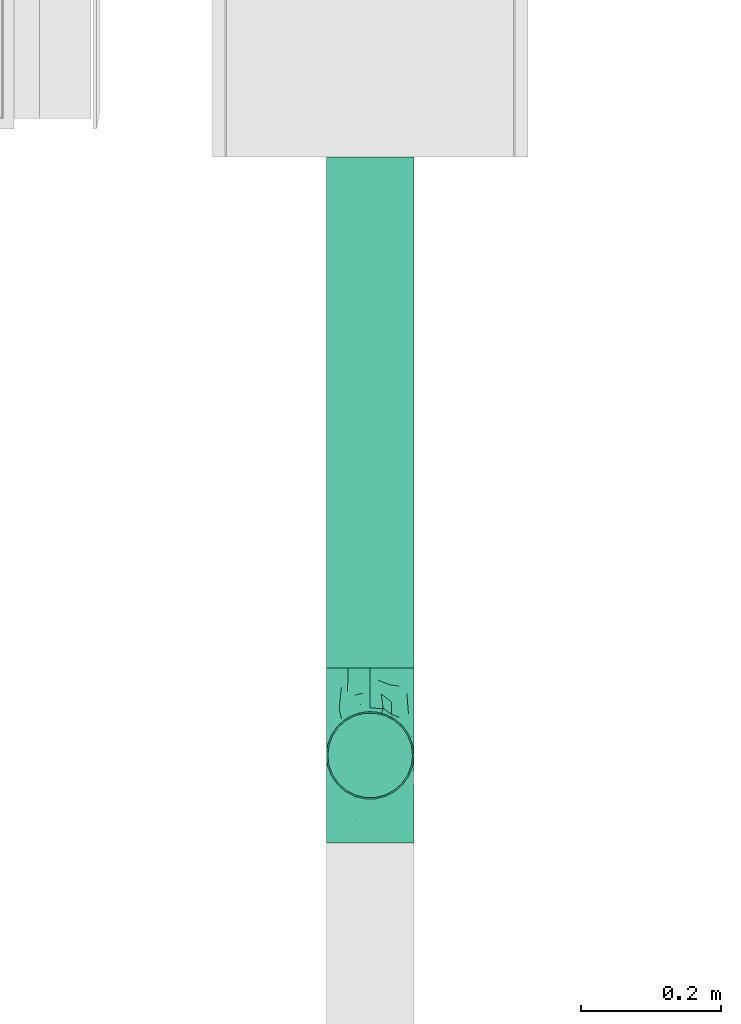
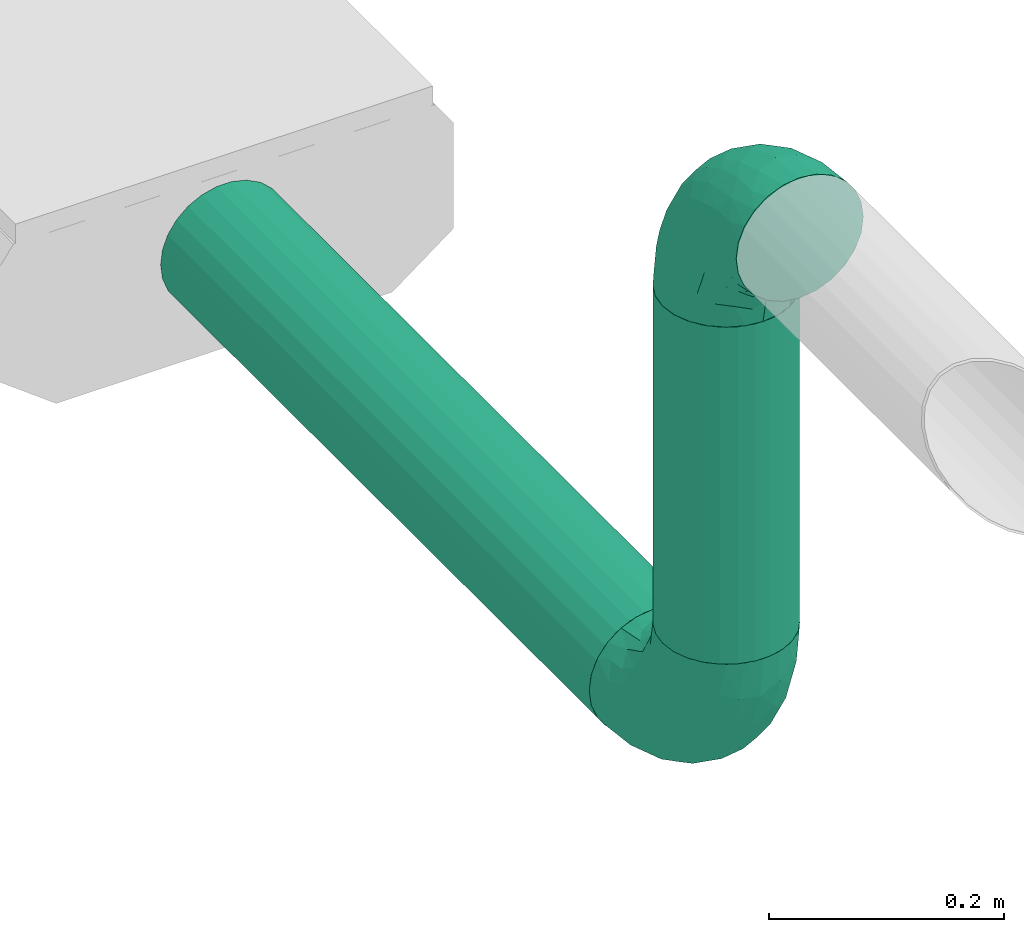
# One storey, part 22 of 36: 2 flow fittings, 2 flow segments.
"""IFC2X3 building model written with IfcOpenShell, lengths in millimetres."""

from ifc_helpers import new_model, entity, si_unit, converted_unit, derived_unit, direction, frame, origin_with_axes, origin_2d_with_axis, place, context, subcontext, project, spatial, hollow_circle, extrude, open_shell, surface_model, source, transform, mapped, type_object, element, save


model = new_model("IFC2X3")

# Units and contexts
model_context = context("Model", 3, precision=0.01, world=frame((0.0, 4.29681676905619e-09, 0.0)), true_north=direction((4.01073788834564e-13, 1.0)))
plan_context = context("Plan", 3, precision=0.01, world=frame((0.0, 4.29681676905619e-09, 0.0)), true_north=direction((4.01073788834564e-13, 1.0)))
body_context = subcontext(model_context, "Body", "Model", "MODEL_VIEW")
ifc_project = project(units=[converted_unit("PLANEANGLEUNIT", "DEGREE", entity("IfcPositiveLengthMeasure", 0.0174532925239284), si_unit("PLANEANGLEUNIT", "RADIAN"), dimensions=[0, 0, 0, 0, 0, 0, 0]), si_unit("AREAUNIT", "SQUARE_METRE"), si_unit("LENGTHUNIT", "METRE", prefix="MILLI"), si_unit("MASSUNIT", "GRAM", prefix="KILO"), si_unit("POWERUNIT", "WATT"), si_unit("PRESSUREUNIT", "PASCAL"), si_unit("FORCEUNIT", "NEWTON", prefix="KILO"), si_unit("ELECTRICCURRENTUNIT", "AMPERE"), si_unit("THERMODYNAMICTEMPERATUREUNIT", "DEGREE_CELSIUS"), si_unit("TIMEUNIT", "SECOND"), si_unit("VOLUMEUNIT", "CUBIC_METRE"), derived_unit("LINEARVELOCITYUNIT", [(si_unit("LENGTHUNIT", "METRE"), 1), (si_unit("TIMEUNIT", "SECOND"), -1)]), derived_unit("VOLUMETRICFLOWRATEUNIT", [(si_unit("VOLUMEUNIT", "CUBIC_METRE"), 1), (si_unit("TIMEUNIT", "SECOND"), -1)]), derived_unit("THERMALTRANSMITTANCEUNIT", [(si_unit("POWERUNIT", "WATT"), 1), (si_unit("THERMODYNAMICTEMPERATUREUNIT", "KELVIN"), -1), (si_unit("AREAUNIT", "SQUARE_METRE"), -1)])], contexts=[model_context, plan_context])

# Site, building, storey
site_placement = place(None, frame((0.0, -4.29681676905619e-09, 0.0), z_axis=(0.0, 0.0, 1.0), x_axis=(1.0, 0.0, 0.0)))
site = spatial("IfcSite", under=ifc_project, at=site_placement, CompositionType="ELEMENT")
building_placement = place(site_placement, frame((0.0, 4.29681676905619e-09, 0.0), z_axis=(0.0, 0.0, 1.0), x_axis=(1.0, 0.0, 0.0)))
building = spatial("IfcBuilding", under=site, at=building_placement, Name="mc-building", CompositionType="ELEMENT")
storey_placement = place(building_placement, frame((0.0, 0.0, 204000.0), z_axis=(0.0, 0.0, 1.0), x_axis=(1.0, 0.0, 0.0)))
storey = spatial("IfcBuildingStorey", under=building, at=storey_placement, Name="Nivå D", CompositionType="ELEMENT", Elevation=204000.0)

# Flow fittings
duct_fitting_type = type_object("IfcDuctFittingType", Name="magicirc_elbow_full_radius_001", PredefinedType="BEND")
shared_shape_1 = source(origin_with_axes(), body_context, "Body", "SurfaceModel", [
    surface_model("IfcShellBasedSurfaceModel", [(-125.00008, 16.17619, -60.37037), (-125.00008, 0.0, -62.5), (-125.00008, 44.19417, -44.19417), (-125.00008, 31.25, -54.12659), (-125.00008, 60.37037, -16.17619), (-125.00008, 54.12659, -31.25), (-125.00008, -16.17619, -60.37037), (-125.00008, -31.25, -54.12659), (-125.00008, -44.19417, -44.19417), (-125.00008, -54.12659, -31.25), (-125.00008, -60.37037, -16.17619), (-125.00008, -62.5, 0.0), (-125.00008, 62.5, 0.0), (-125.00008, -31.25, 54.12659), (-125.00008, 60.37037, 16.17619), (-125.00008, 54.12659, 31.25), (-125.00008, 16.17619, 60.37037), (-125.00008, 31.25, 54.12659), (-125.00008, 44.19417, 44.19417), (-125.00008, -54.12659, 31.25), (-125.00008, -44.19417, 44.19417), (-125.00008, -60.37037, 16.17619), (-125.00008, -16.17619, 60.37037), (-125.00008, 0.0, 62.5), (-16.17627, 125.00007, -60.37037), (44.1941, 125.00011, -44.19417), (-8e-05, 125.00008, -62.5), (-44.19425, 125.00006, -44.19417), (-31.25008, 125.00006, -54.12659), (-54.12667, 125.00005, -31.25), (-60.37044, 125.00004, -16.17619), (16.17611, 125.00009, -60.37037), (31.24992, 125.0001, -54.12659), (60.37028, 125.00012, -16.17619), (54.12651, 125.00012, -31.25), (62.49992, 125.00012, 0.0), (-60.37044, 125.00004, 16.17619), (-16.17627, 125.00007, 60.37037), (-44.19425, 125.00006, 44.19417), (-54.12667, 125.00005, 31.25), (-31.25008, 125.00006, 54.12659), (-8e-05, 125.00008, 62.5), (60.37028, 125.00012, 16.17619), (44.1941, 125.00011, 44.19417), (54.12651, 125.00012, 31.25), (31.24992, 125.0001, 54.12659), (16.17611, 125.00009, 60.37037), (-62.50008, 125.00004, 0.0), (-92.01499, -48.59662, 35.11543), (-82.31108, -36.10079, 46.59002), (-83.27738, -57.79898, 0.0), (21.59337, 8.09572, 0.0), (6.68949, -6.68949, 12.50062), (-8.0957, -21.59337, 0.0), (-85.18294, -54.95352, 19.72452), (-63.86869, 108.10794, 10.69753), (-72.65271, 88.16477, 13.64848), (-58.8594, 108.47701, 26.01877), (28.68801, 50.93019, 42.73586), (15.2499, 48.30382, 51.88115), (13.33609, 22.15572, 40.76355), (-28.58039, -33.18172, 16.61251), (-55.80936, -40.00167, 31.60253), (-55.92907, -46.21073, 18.75922), (-43.64685, -43.93165, 0.0), (-11.16432, 11.16432, 51.09904), (-91.91548, -23.64007, 56.2333), (-48.30381, -15.24993, 51.88115), (-62.22465, -0.56087, 60.57833), (-86.05227, 71.09174, 22.01564), (-76.29763, 73.71529, 30.99182), (-95.48006, -8.27954, 61.43109), (-21.7217, 61.46247, 62.38786), (-46.2947, 46.29467, 60.98138), (-37.21572, 27.312, 62.17805), (-96.34428, 24.51221, 59.0402), (-23.33019, 107.80842, 58.54242), (-8.56594, 93.49125, 62.34649), (-87.52036, 9.58041, 62.39347), (-90.84336, 62.14568, 32.36992), (-104.65638, 61.64741, 22.10299), (-108.6762, 63.76169, 10.43133), (-88.81048, 72.98576, 10.36438), (36.10074, 82.31111, 46.59002), (-22.15571, -13.3361, 40.76355), (-97.70221, 52.10141, 41.01675), (33.1817, 28.58041, 16.61251), (43.93162, 43.64688, 0.0), (-108.1333, 37.84893, 50.9265), (-16.31429, 41.86092, 61.36861), (-31.05503, 11.46575, 58.3624), (-6.385, 33.76706, 57.43674), (23.64002, 91.9155, 56.2333), (8.27948, 95.48006, 61.43109), (40.00164, 55.80938, 31.60253), (47.31254, 55.33616, 14.21496), (57.79892, 83.27743, 0.0), (54.95347, 85.18296, 19.72452), (48.59656, 92.01501, 35.11543), (-51.08399, 80.06206, 49.23756), (-51.34971, 100.68879, 40.68918), (-65.8815, 69.79933, 44.27158), (-67.2576, 101.08231, 0.0), (-66.75096, 56.08362, 51.93913), (-47.27429, 67.56378, 55.69769), (-80.8059, 80.80584, 0.0), (-101.08236, 67.25753, 0.0), (-27.03015, 84.68907, 59.52251), (-39.49555, 96.79791, 51.80473), (-4.68937, 4.68937, 43.22246), (2.91364, -2.91364, 27.95972), (-68.67974, 26.77169, 61.38152), (-61.329, 15.31518, 62.47333), (-66.44481, 42.4079, 57.80884), (-86.0654, 42.42608, 52.63145), (-36.40735, 64.87814, 59.87196), (0.56083, 62.22465, 60.57833), (-50.92898, -28.66756, 42.75499), (-64.50933, 88.50412, 30.85553), (-27.43127, -26.16339, 29.83955), (22.73421, 21.43216, 28.89236), (-90.73917, 40.97988, -52.27133), (-51.05948, -15.77312, -52.43613), (-54.27153, -0.77961, -59.44482), (-25.11171, -1.04584, -51.21225), (-98.94236, 7.90272, -62.29658), (-67.16149, 94.52641, -18.73918), (-96.17127, 24.53976, -59.04752), (-57.88416, 72.64105, -48.12601), (-44.50921, 76.42377, -54.27754), (-57.76287, 57.76282, -54.87721), (-107.28054, 64.03146, -11.08737), (-59.60369, -46.85881, -20.95959), (-91.17803, -55.95169, -20.37553), (-87.70535, 72.36168, -15.72738), (37.33982, 90.42129, -47.18844), (21.56935, 79.15017, -55.58604), (24.63933, 105.55623, -56.88213), (-98.81841, 51.80612, -40.89409), (-75.37661, 57.27462, -47.13743), (-29.5623, -32.616, -19.86672), (2.6311, 29.3589, -52.12213), (-22.06404, 22.06403, -59.01679), (-105.22473, -49.75349, -36.31269), (-39.22859, 98.11976, -51.7028), (-25.51308, 90.93132, -59.26694), (7.0632, 14.54732, -41.00964), (25.49528, 46.66585, -43.72165), (20.9994, 20.90791, -30.93536), (-90.42127, -37.33987, -47.18844), (-47.4047, -35.90659, -32.07933), (-105.55621, -24.6394, -56.88213), (0.77958, 54.27153, -59.44482), (12.91752, 53.35703, -54.59988), (7.88042, 92.08259, -61.35725), (-79.15015, -21.5694, -55.58604), (-92.08258, -7.88048, -61.35725), (-78.52971, -46.34868, -33.8522), (-68.20961, -28.53783, -49.07388), (46.34863, 78.52974, -33.8522), (46.85877, 59.60372, -20.95959), (35.90656, 47.40472, -32.07933), (-75.95085, 74.3101, -30.65773), (-100.92726, 60.72326, -27.00798), (2.91554, -2.91554, -27.95435), (6.68997, -6.68997, -12.49729), (32.61598, 29.56232, -19.86672), (-54.06792, 91.48682, -41.70622), (-58.74828, 101.55882, -30.19257), (-7.90279, 98.94235, -62.29658), (49.75343, 105.22475, -36.31269), (-14.77489, 68.85353, -62.48651), (-33.79554, 36.46999, -62.46452), (-36.98166, 59.25003, -60.63975), (55.95163, 91.17806, -20.37553), (-61.70772, 36.16981, -60.43635), (-23.35088, -23.1825, -30.24251), (-68.85354, 14.77484, -62.48651), (-16.6083, -10.64431, -39.25755), (-46.66583, -25.49531, -43.72165), (-69.70069, 70.7847, -40.55271)], [open_shell([[[0, 1, 2]], [[3, 0, 2]], [[4, 5, 2]], [[6, 2, 1]], [[4, 2, 6]], [[7, 8, 6]], [[8, 4, 6]], [[9, 10, 8]], [[11, 8, 10]], [[8, 11, 4]], [[11, 12, 4]], [[12, 13, 14]], [[15, 14, 16]], [[16, 17, 18]], [[15, 16, 18]], [[16, 14, 13]], [[19, 20, 21]], [[21, 20, 11]], [[22, 23, 13]], [[20, 13, 11]], [[13, 23, 16]], [[13, 12, 11]], [[24, 25, 26]], [[27, 24, 28]], [[27, 29, 30]], [[27, 30, 24]], [[25, 24, 30]], [[31, 25, 32]], [[31, 26, 25]], [[25, 33, 34]], [[33, 25, 35]], [[25, 36, 35]], [[25, 30, 36]], [[35, 36, 37]], [[38, 36, 39]], [[40, 37, 36]], [[40, 36, 38]], [[35, 37, 41]], [[42, 43, 44]], [[43, 42, 45]], [[45, 41, 46]], [[41, 45, 42]], [[35, 41, 42]], [[30, 47, 36]], [[20, 48, 49]], [[21, 11, 50]], [[51, 52, 53]], [[54, 19, 21]], [[50, 54, 21]], [[55, 56, 57]], [[19, 48, 20]], [[58, 59, 60]], [[61, 62, 63]], [[61, 63, 64]], [[20, 49, 13]], [[61, 64, 53]], [[65, 60, 59]], [[66, 67, 68]], [[56, 69, 70]], [[71, 23, 22]], [[72, 73, 74]], [[17, 16, 75]], [[66, 13, 49]], [[37, 76, 77]], [[23, 78, 16]], [[15, 79, 80]], [[81, 12, 14]], [[69, 82, 81]], [[83, 43, 45]], [[65, 67, 84]], [[18, 85, 15]], [[86, 51, 87]], [[18, 17, 88]], [[89, 90, 91]], [[83, 45, 92]], [[69, 81, 80]], [[93, 46, 41]], [[94, 86, 95]], [[96, 97, 95]], [[96, 42, 97]], [[98, 97, 44]], [[41, 37, 77]], [[63, 50, 64]], [[42, 44, 97]], [[83, 94, 98]], [[44, 43, 98]], [[99, 100, 101]], [[55, 102, 56]], [[36, 57, 39]], [[42, 96, 35]], [[48, 54, 62]], [[79, 70, 69]], [[99, 103, 104]], [[47, 102, 55]], [[23, 71, 78]], [[56, 105, 82]], [[18, 88, 85]], [[102, 105, 56]], [[92, 45, 46]], [[57, 100, 39]], [[82, 105, 106]], [[107, 108, 104]], [[109, 110, 60]], [[107, 72, 77]], [[13, 66, 22]], [[108, 107, 76]], [[76, 37, 40]], [[40, 38, 108]], [[83, 92, 59]], [[95, 86, 87]], [[111, 112, 74]], [[75, 16, 78]], [[113, 75, 111]], [[103, 85, 114]], [[80, 79, 69]], [[100, 38, 39]], [[107, 104, 115]], [[107, 115, 72]], [[93, 77, 116]], [[67, 66, 49]], [[71, 66, 68]], [[67, 117, 84]], [[67, 65, 90]], [[93, 92, 46]], [[116, 91, 59]], [[116, 59, 92]], [[109, 60, 65]], [[54, 48, 19]], [[49, 48, 62]], [[83, 98, 43]], [[97, 98, 94]], [[111, 75, 78]], [[88, 75, 114]], [[81, 82, 106]], [[56, 82, 69]], [[12, 81, 106]], [[81, 14, 80]], [[14, 15, 80]], [[79, 15, 85]], [[85, 101, 79]], [[70, 101, 118]], [[108, 99, 104]], [[113, 103, 114]], [[111, 74, 73]], [[116, 77, 72]], [[90, 74, 68]], [[72, 74, 89]], [[77, 93, 41]], [[92, 93, 116]], [[66, 71, 22]], [[78, 71, 68]], [[101, 100, 118]], [[108, 38, 100]], [[52, 61, 53]], [[119, 110, 84]], [[94, 58, 120]], [[86, 120, 52]], [[117, 67, 49]], [[61, 119, 62]], [[120, 60, 110]], [[83, 58, 94]], [[111, 78, 112]], [[113, 111, 73]], [[104, 113, 73]], [[75, 113, 114]], [[104, 103, 113]], [[85, 103, 101]], [[78, 68, 112]], [[68, 74, 112]], [[101, 70, 79]], [[56, 70, 118]], [[67, 90, 68]], [[91, 90, 65]], [[59, 91, 65]], [[89, 91, 116]], [[72, 89, 116]], [[90, 89, 74]], [[57, 56, 118]], [[47, 55, 36]], [[86, 52, 51]], [[61, 52, 110]], [[75, 88, 17]], [[85, 88, 114]], [[108, 76, 40]], [[77, 76, 107]], [[55, 57, 36]], [[100, 57, 118]], [[104, 73, 115]], [[72, 115, 73]], [[100, 99, 108]], [[103, 99, 101]], [[62, 54, 63]], [[63, 54, 50]], [[96, 95, 87]], [[94, 95, 97]], [[49, 62, 117]], [[119, 117, 62]], [[110, 119, 61]], [[117, 119, 84]], [[65, 84, 109]], [[110, 109, 84]], [[52, 120, 110]], [[94, 120, 86]], [[59, 58, 83]], [[120, 58, 60]], [[2, 121, 3]], [[122, 123, 124]], [[1, 0, 125]], [[126, 102, 47]], [[3, 127, 0]], [[128, 129, 130]], [[106, 131, 12]], [[132, 50, 133]], [[106, 134, 131]], [[135, 136, 137]], [[138, 139, 121]], [[64, 140, 53]], [[141, 124, 142]], [[121, 2, 138]], [[133, 9, 143]], [[144, 28, 145]], [[50, 11, 10]], [[146, 147, 148]], [[149, 8, 7]], [[140, 132, 150]], [[151, 149, 7]], [[141, 152, 153]], [[31, 154, 26]], [[133, 10, 9]], [[143, 9, 8]], [[155, 156, 123]], [[157, 149, 158]], [[7, 6, 151]], [[156, 6, 1]], [[159, 160, 161]], [[105, 134, 106]], [[64, 50, 132]], [[126, 162, 134]], [[138, 163, 162]], [[30, 126, 47]], [[140, 164, 165]], [[166, 87, 51]], [[167, 168, 29]], [[162, 126, 168]], [[32, 25, 135]], [[154, 31, 137]], [[24, 169, 145]], [[127, 3, 121]], [[169, 24, 26]], [[25, 34, 170]], [[28, 144, 27]], [[24, 145, 28]], [[31, 32, 137]], [[87, 166, 160]], [[165, 166, 51]], [[171, 172, 173]], [[142, 152, 141]], [[165, 51, 53]], [[156, 155, 151]], [[136, 135, 147]], [[34, 33, 174]], [[35, 96, 33]], [[175, 127, 121]], [[2, 5, 138]], [[174, 159, 170]], [[176, 140, 150]], [[171, 154, 152]], [[126, 105, 102]], [[29, 27, 167]], [[173, 145, 171]], [[131, 163, 4]], [[128, 144, 129]], [[139, 128, 130]], [[174, 160, 159]], [[170, 135, 25]], [[147, 135, 159]], [[152, 154, 136]], [[169, 154, 171]], [[153, 147, 141]], [[152, 142, 172]], [[33, 96, 174]], [[160, 96, 87]], [[155, 122, 158]], [[143, 149, 157]], [[125, 156, 1]], [[177, 172, 123]], [[177, 123, 156]], [[123, 142, 124]], [[133, 157, 132]], [[50, 10, 133]], [[126, 134, 105]], [[168, 30, 29]], [[163, 5, 4]], [[121, 139, 130]], [[175, 121, 130]], [[125, 127, 177]], [[145, 173, 129]], [[167, 27, 144]], [[147, 146, 141]], [[178, 124, 146]], [[124, 141, 146]], [[124, 179, 122]], [[162, 163, 134]], [[138, 5, 163]], [[127, 125, 0]], [[156, 125, 177]], [[154, 169, 26]], [[145, 169, 171]], [[147, 161, 148]], [[146, 164, 178]], [[176, 164, 140]], [[124, 178, 179]], [[171, 152, 172]], [[175, 130, 173]], [[123, 172, 142]], [[175, 172, 177]], [[172, 175, 173]], [[127, 175, 177]], [[162, 180, 138]], [[180, 167, 128]], [[160, 174, 96]], [[161, 160, 166]], [[161, 166, 148]], [[147, 159, 161]], [[166, 164, 148]], [[164, 146, 148]], [[150, 132, 157]], [[64, 132, 140]], [[157, 179, 150]], [[176, 179, 178]], [[180, 128, 139]], [[144, 128, 167]], [[145, 129, 144]], [[173, 130, 129]], [[138, 180, 139]], [[167, 180, 162]], [[179, 176, 150]], [[164, 176, 178]], [[140, 165, 53]], [[166, 165, 164]], [[163, 131, 134]], [[12, 131, 4]], [[135, 137, 32]], [[154, 137, 136]], [[174, 170, 34]], [[135, 170, 159]], [[156, 151, 6]], [[149, 151, 155]], [[149, 143, 8]], [[133, 143, 157]], [[162, 168, 167]], [[30, 168, 126]], [[152, 136, 153]], [[147, 153, 136]], [[158, 122, 179]], [[123, 122, 155]], [[157, 158, 179]], [[155, 158, 149]]])]),
])
flow_fitting_1_placement = place(storey_placement, frame((521218.76742, 417759.63634, 2599.99994000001), z_axis=(-1.0, 0.0, 0.0), x_axis=(0.0, -1.0, 0.0)))
element("IfcFlowFitting", 1, at=flow_fitting_1_placement, inside=storey, type_object=duct_fitting_type, Name="magicirc_elbow_full_radius_001", context=body_context, shape_type="MappedRepresentation", body=[
    mapped(shared_shape_1, transform((0.0, 0.0, 0.0), scale=1.0)),
])
shared_shape_2 = source(origin_with_axes(), body_context, "Body", "SurfaceModel", [
    surface_model("IfcShellBasedSurfaceModel", [(-125.0, 31.25, -54.12659), (-125.0, 16.17619, -60.37037), (-125.0, 44.19417, -44.19417), (-125.0, 60.37037, -16.17619), (-125.0, 54.12659, -31.25), (-125.0, -31.25, -54.12659), (-125.0, -44.19417, -44.19417), (-125.0, -16.17619, -60.37037), (-125.0, -54.12659, -31.25), (-125.0, -60.37037, -16.17619), (-125.0, -62.5, 0.0), (-125.0, -54.12659, 31.25), (-125.0, -44.19417, 44.19417), (-125.0, -60.37037, 16.17619), (-125.0, -16.17619, 60.37037), (-125.0, 0.0, 62.5), (-125.0, -31.25, 54.12659), (-125.0, 16.17619, 60.37037), (-44.19417, 125.0, -44.19417), (-16.17619, 125.0, -60.37037), (-31.25, 125.0, -54.12659), (-54.12659, 125.0, -31.25), (-60.37037, 125.0, -16.17619), (16.17619, 125.0, -60.37037), (44.19417, 125.0, -44.19417), (31.25, 125.0, -54.12659), (60.37037, 125.0, -16.17619), (54.12659, 125.0, -31.25), (62.5, 125.0, 0.0), (-44.19417, 125.0, 44.19417), (-31.25, 125.0, 54.12659), (-16.17619, 125.0, 60.37037), (60.37037, 125.0, 16.17619), (44.19417, 125.0, 44.19417), (54.12659, 125.0, 31.25), (31.25, 125.0, 54.12659), (0.0, 125.0, 62.5), (16.17619, 125.0, 60.37037), (-92.0149, -48.59662, 35.11543), (-82.31101, -36.10079, 46.59002), (-83.27732, -57.79898, 0.0), (21.5934, 8.09566, 0.0), (6.68953, -6.68953, 12.50062), (-8.09566, -21.5934, 0.0), (-85.18285, -54.95352, 19.72452), (-63.86862, 108.10791, 10.69753), (-72.65264, 88.16475, 13.64847), (-58.85933, 108.47697, 26.01876), (28.68805, 50.93011, 42.73586), (15.24994, 48.30376, 51.88115), (13.33611, 22.15566, 40.76355), (-28.58034, -33.18174, 16.61251), (-55.80927, -40.00167, 31.60254), (-55.92901, -46.21073, 18.75923), (-43.6468, -43.93166, 0.0), (-11.16429, 11.16428, 51.09905), (-91.91541, -23.64007, 56.2333), (-48.30376, -15.24994, 51.88115), (-62.2246, -0.56088, 60.57833), (-86.05221, 71.09173, 22.01563), (-76.29757, 73.71528, 30.99181), (-95.48, -8.27954, 61.43109), (-21.72166, 61.46244, 62.38786), (-46.29465, 46.29465, 60.98138), (-37.21568, 27.31198, 62.17805), (-125.0, 31.25, 54.12659), (-96.3442, 24.51222, 59.0402), (-23.33012, 107.80836, 58.54242), (-8.56588, 93.49118, 62.34649), (-87.52028, 9.58041, 62.39347), (-125.0, 54.12659, 31.25), (-90.8433, 62.14568, 32.36992), (-104.65631, 61.64741, 22.10298), (-108.67612, 63.76169, 10.43133), (-125.0, 62.5, 0.0), (-125.0, 60.37037, 16.17619), (-88.81041, 72.98575, 10.36437), (36.10079, 82.31101, 46.59002), (-22.15566, -13.33612, 40.76355), (-125.0, 44.19417, 44.19417), (-97.70214, 52.10141, 41.01675), (33.18174, 28.58034, 16.61251), (43.93166, 43.6468, 0.0), (-108.13323, 37.84893, 50.9265), (-16.31425, 41.86087, 61.36861), (-31.05498, 11.46575, 58.36241), (-6.38494, 33.76703, 57.43674), (23.64007, 91.91541, 56.2333), (8.27954, 95.48, 61.43109), (40.00167, 55.80927, 31.60254), (47.31258, 55.33607, 14.21495), (57.79898, 83.27732, 0.0), (54.95352, 85.18285, 19.72452), (48.59662, 92.0149, 35.11543), (-51.08394, 80.06201, 49.23756), (-51.34965, 100.68876, 40.68918), (-65.88145, 69.79931, 44.27158), (-67.25753, 101.08228, 0.0), (-60.37037, 125.0, 16.17619), (-54.12659, 125.0, 31.25), (-66.7509, 56.0836, 51.93913), (-47.27423, 67.56375, 55.69769), (-62.5, 125.0, 0.0), (-80.80582, 80.80582, 0.0), (-101.08228, 67.25753, 0.0), (-27.0301, 84.68903, 59.52251), (-39.49549, 96.79785, 51.80473), (-4.68934, 4.68934, 43.22247), (2.91368, -2.91368, 27.95973), (-68.67967, 26.77168, 61.38152), (-61.32894, 15.31518, 62.47333), (-66.44476, 42.40788, 57.80884), (-86.06534, 42.42608, 52.63144), (-36.4073, 64.87811, 59.87196), (0.56088, 62.2246, 60.57833), (-50.92891, -28.66756, 42.755), (-64.50927, 88.5041, 30.85553), (-27.43118, -26.16339, 29.83954), (22.73426, 21.43212, 28.89237), (-90.73911, 40.97988, -52.27133), (-51.05944, -15.77315, -52.43613), (-54.27147, -0.77962, -59.44482), (-25.11169, -1.04586, -51.21226), (-125.0, 0.0, -62.5), (-98.94229, 7.90272, -62.29658), (-67.16143, 94.52638, -18.73917), (-96.1712, 24.53976, -59.04752), (-57.8841, 72.64103, -48.12601), (-44.50916, 76.42373, -54.27754), (-57.76281, 57.76281, -54.8772), (-107.28047, 64.03146, -11.08737), (-59.60363, -46.85882, -20.9596), (-91.17795, -55.95169, -20.37554), (-87.70528, 72.36167, -15.72738), (37.33987, 90.42119, -47.18844), (21.5694, 79.15007, -55.58604), (24.6394, 105.55614, -56.88213), (-98.81833, 51.80612, -40.89409), (-75.37655, 57.2746, -47.13743), (-29.56225, -32.61603, -19.86672), (2.63114, 29.35884, -52.12213), (-22.06401, 22.064, -59.01679), (-105.22465, -49.75349, -36.31269), (-39.22852, 98.11971, -51.7028), (-25.51302, 90.93127, -59.26694), (7.06321, 14.54725, -41.00964), (25.49531, 46.66577, -43.72165), (20.99941, 20.9078, -30.93535), (-90.42119, -37.33987, -47.18844), (-47.40462, -35.90659, -32.07933), (-105.55614, -24.6394, -56.88213), (0.77962, 54.27147, -59.44482), (12.91756, 53.35696, -54.59988), (7.88048, 92.08251, -61.35725), (0.0, 125.0, -62.5), (-79.15007, -21.5694, -55.58604), (-92.08251, -7.88048, -61.35725), (-78.52964, -46.34869, -33.8522), (-68.20954, -28.53784, -49.07387), (46.34869, 78.52964, -33.8522), (46.85882, 59.60363, -20.9596), (35.90659, 47.40462, -32.07933), (-75.95077, 74.3101, -30.65772), (-100.92719, 60.72326, -27.00798), (2.91558, -2.91558, -27.95435), (6.69001, -6.69001, -12.49729), (32.61603, 29.56225, -19.86672), (-54.06785, 91.48679, -41.70621), (-58.74822, 101.55878, -30.19257), (-7.90272, 98.94229, -62.29658), (49.75349, 105.22465, -36.31269), (-14.77484, 68.85348, -62.48651), (-33.7955, 36.46996, -62.46452), (-36.98162, 59.24998, -60.63975), (55.95169, 91.17795, -20.37554), (-61.70769, 36.16979, -60.43635), (-23.35082, -23.18253, -30.24249), (-68.85348, 14.77484, -62.48651), (-16.60827, -10.64436, -39.25753), (-46.66577, -25.49531, -43.72165), (-69.70063, 70.78468, -40.55271)], [open_shell([[[0, 1, 2]], [[3, 4, 2]], [[5, 6, 7]], [[8, 9, 6]], [[10, 6, 9]], [[11, 12, 13]], [[13, 12, 10]], [[14, 15, 16]], [[16, 15, 17]], [[18, 19, 20]], [[18, 21, 22]], [[23, 24, 25]], [[24, 26, 27]], [[26, 24, 28]], [[29, 30, 31]], [[32, 33, 34]], [[35, 36, 37]], [[12, 38, 39]], [[13, 10, 40]], [[41, 42, 43]], [[44, 11, 13]], [[40, 44, 13]], [[45, 46, 47]], [[11, 38, 12]], [[48, 49, 50]], [[51, 52, 53]], [[51, 53, 54]], [[12, 39, 16]], [[51, 54, 43]], [[55, 50, 49]], [[56, 57, 58]], [[46, 59, 60]], [[61, 15, 14]], [[62, 63, 64]], [[65, 17, 66]], [[56, 16, 39]], [[31, 67, 68]], [[15, 69, 17]], [[70, 71, 72]], [[73, 74, 75]], [[59, 76, 73]], [[77, 33, 35]], [[55, 57, 78]], [[79, 80, 70]], [[81, 41, 82]], [[79, 65, 83]], [[84, 85, 86]], [[77, 35, 87]], [[59, 73, 72]], [[88, 37, 36]], [[89, 81, 90]], [[91, 92, 90]], [[91, 32, 92]], [[93, 92, 34]], [[36, 31, 68]], [[53, 40, 54]], [[32, 34, 92]], [[77, 89, 93]], [[34, 33, 93]], [[94, 95, 96]], [[45, 97, 46]], [[98, 47, 99]], [[32, 91, 28]], [[38, 44, 52]], [[71, 60, 59]], [[94, 100, 101]], [[102, 97, 45]], [[15, 61, 69]], [[46, 103, 76]], [[79, 83, 80]], [[97, 103, 46]], [[87, 35, 37]], [[47, 95, 99]], [[76, 103, 104]], [[105, 106, 101]], [[107, 108, 50]], [[105, 62, 68]], [[16, 56, 14]], [[106, 105, 67]], [[67, 31, 30]], [[30, 29, 106]], [[77, 87, 49]], [[90, 81, 82]], [[109, 110, 64]], [[66, 17, 69]], [[111, 66, 109]], [[100, 80, 112]], [[72, 71, 59]], [[95, 29, 99]], [[113, 101, 63]], [[105, 113, 62]], [[88, 68, 114]], [[57, 56, 39]], [[61, 56, 58]], [[57, 115, 78]], [[57, 55, 85]], [[88, 87, 37]], [[114, 86, 49]], [[114, 49, 87]], [[107, 50, 55]], [[44, 38, 11]], [[39, 38, 52]], [[77, 93, 33]], [[92, 93, 89]], [[109, 66, 69]], [[83, 66, 112]], [[73, 76, 104]], [[46, 76, 59]], [[74, 73, 104]], [[73, 75, 72]], [[75, 70, 72]], [[71, 70, 80]], [[80, 96, 71]], [[60, 96, 116]], [[106, 94, 101]], [[111, 100, 112]], [[109, 64, 63]], [[114, 68, 62]], [[85, 64, 58]], [[62, 64, 84]], [[68, 88, 36]], [[87, 88, 114]], [[56, 61, 14]], [[69, 61, 58]], [[96, 95, 116]], [[106, 29, 95]], [[42, 51, 43]], [[117, 108, 78]], [[89, 48, 118]], [[81, 118, 42]], [[115, 57, 39]], [[51, 117, 52]], [[118, 50, 108]], [[77, 48, 89]], [[109, 69, 110]], [[111, 109, 63]], [[101, 111, 63]], [[66, 111, 112]], [[101, 100, 111]], [[80, 100, 96]], [[69, 58, 110]], [[58, 64, 110]], [[96, 60, 71]], [[46, 60, 116]], [[57, 85, 58]], [[86, 85, 55]], [[49, 86, 55]], [[84, 86, 114]], [[62, 84, 114]], [[85, 84, 64]], [[47, 46, 116]], [[102, 45, 98]], [[81, 42, 41]], [[51, 42, 108]], [[66, 83, 65]], [[80, 83, 112]], [[106, 67, 30]], [[68, 67, 105]], [[45, 47, 98]], [[95, 47, 116]], [[62, 113, 63]], [[105, 101, 113]], [[95, 94, 106]], [[100, 94, 96]], [[52, 44, 53]], [[53, 44, 40]], [[91, 90, 82]], [[89, 90, 92]], [[39, 52, 115]], [[117, 115, 52]], [[108, 117, 51]], [[115, 117, 78]], [[55, 78, 107]], [[108, 107, 78]], [[42, 118, 108]], [[89, 118, 81]], [[49, 48, 77]], [[118, 48, 50]], [[2, 119, 0]], [[120, 121, 122]], [[123, 1, 124]], [[125, 97, 102]], [[0, 126, 1]], [[127, 128, 129]], [[104, 130, 74]], [[131, 40, 132]], [[104, 133, 130]], [[134, 135, 136]], [[137, 138, 119]], [[54, 139, 43]], [[140, 122, 141]], [[119, 2, 137]], [[132, 8, 142]], [[143, 20, 144]], [[40, 10, 9]], [[145, 146, 147]], [[148, 6, 5]], [[139, 131, 149]], [[150, 148, 5]], [[140, 151, 152]], [[23, 153, 154]], [[132, 9, 8]], [[142, 8, 6]], [[155, 156, 121]], [[157, 148, 158]], [[5, 7, 150]], [[156, 7, 123]], [[159, 160, 161]], [[103, 133, 104]], [[54, 40, 131]], [[125, 162, 133]], [[137, 163, 162]], [[22, 125, 102]], [[139, 164, 165]], [[166, 82, 41]], [[167, 168, 21]], [[162, 125, 168]], [[25, 24, 134]], [[153, 23, 136]], [[19, 169, 144]], [[126, 0, 119]], [[169, 19, 154]], [[24, 27, 170]], [[20, 143, 18]], [[19, 144, 20]], [[23, 25, 136]], [[82, 166, 160]], [[165, 166, 41]], [[171, 172, 173]], [[141, 151, 140]], [[165, 41, 43]], [[156, 155, 150]], [[135, 134, 146]], [[27, 26, 174]], [[28, 91, 26]], [[175, 126, 119]], [[2, 4, 137]], [[174, 159, 170]], [[176, 139, 149]], [[171, 153, 151]], [[125, 103, 97]], [[21, 18, 167]], [[173, 144, 171]], [[130, 163, 3]], [[127, 143, 128]], [[138, 127, 129]], [[174, 160, 159]], [[170, 134, 24]], [[146, 134, 159]], [[151, 153, 135]], [[169, 153, 171]], [[152, 146, 140]], [[151, 141, 172]], [[26, 91, 174]], [[160, 91, 82]], [[155, 120, 158]], [[142, 148, 157]], [[124, 156, 123]], [[177, 172, 121]], [[177, 121, 156]], [[121, 141, 122]], [[132, 157, 131]], [[40, 9, 132]], [[125, 133, 103]], [[168, 22, 21]], [[163, 4, 3]], [[119, 138, 129]], [[175, 119, 129]], [[124, 126, 177]], [[144, 173, 128]], [[167, 18, 143]], [[146, 145, 140]], [[178, 122, 145]], [[122, 140, 145]], [[122, 179, 120]], [[162, 163, 133]], [[137, 4, 163]], [[126, 124, 1]], [[156, 124, 177]], [[153, 169, 154]], [[144, 169, 171]], [[146, 161, 147]], [[145, 164, 178]], [[176, 164, 139]], [[122, 178, 179]], [[171, 151, 172]], [[175, 129, 173]], [[121, 172, 141]], [[175, 172, 177]], [[172, 175, 173]], [[126, 175, 177]], [[162, 180, 137]], [[180, 167, 127]], [[160, 174, 91]], [[161, 160, 166]], [[161, 166, 147]], [[146, 159, 161]], [[166, 164, 147]], [[164, 145, 147]], [[149, 131, 157]], [[54, 131, 139]], [[157, 179, 149]], [[176, 179, 178]], [[180, 127, 138]], [[143, 127, 167]], [[144, 128, 143]], [[173, 129, 128]], [[137, 180, 138]], [[167, 180, 162]], [[179, 176, 149]], [[164, 176, 178]], [[139, 165, 43]], [[166, 165, 164]], [[163, 130, 133]], [[74, 130, 3]], [[134, 136, 25]], [[153, 136, 135]], [[174, 170, 27]], [[134, 170, 159]], [[156, 150, 7]], [[148, 150, 155]], [[148, 142, 6]], [[132, 142, 157]], [[162, 168, 167]], [[22, 168, 125]], [[151, 135, 152]], [[146, 152, 135]], [[158, 120, 179]], [[121, 120, 155]], [[157, 158, 179]], [[155, 158, 148]], [[123, 6, 1]], [[6, 2, 1]], [[2, 6, 3]], [[6, 123, 7]], [[10, 12, 6]], [[75, 3, 6]], [[6, 16, 75]], [[75, 16, 70]], [[65, 70, 16]], [[79, 70, 65]], [[65, 16, 17]], [[12, 16, 6]], [[74, 3, 75]], [[19, 24, 154]], [[23, 154, 24]], [[22, 102, 98]], [[24, 19, 18]], [[33, 24, 18]], [[33, 18, 22]], [[24, 32, 28]], [[33, 22, 98]], [[29, 98, 99]], [[98, 29, 33]], [[31, 33, 29]], [[24, 33, 32]], [[36, 35, 33]], [[31, 36, 33]]])]),
])
flow_fitting_2_placement = place(storey_placement, frame((521218.76742, 417759.63634, 3199.99994000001), z_axis=(1.0, 0.0, 0.0), x_axis=(0.0, 0.0, 1.0)))
element("IfcFlowFitting", 2, at=flow_fitting_2_placement, inside=storey, type_object=duct_fitting_type, Name="magicirc_elbow_full_radius_001", context=body_context, shape_type="MappedRepresentation", body=[
    mapped(shared_shape_2, transform((0.0, 0.0, 0.0), scale=1.0)),
])

# Flow segments
duct_segment_type = type_object("IfcDuctSegmentType", Name="KK001T - Spiro kanaler, Forsinket stål", PredefinedType="RIGIDSEGMENT")
shared_shape_3 = source(origin_with_axes(), body_context, "Body", "SweptSolid", [
    extrude(hollow_circle(Radius=62.5, WallThickness=2.0, at=origin_2d_with_axis()), frame((0.0, 0.0, 0.0), z_axis=(1.0, 0.0, 0.0), x_axis=(0.0, 1.0, 0.0)), (0.0, 0.0, 1.0), 729.2),
])
flow_segment_1_placement = place(storey_placement, frame((521218.76742, 418613.82336, 2600.00026999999), z_axis=(0.0, 0.0, 1.0), x_axis=(0.0, -1.0, 0.0)))
element("IfcFlowSegment", 3, at=flow_segment_1_placement, inside=storey, type_object=duct_segment_type, Name="KK001T - Spiro kanaler, Forsinket stål", context=body_context, shape_type="MappedRepresentation", body=[
    mapped(shared_shape_3, transform((0.0, 0.0, 0.0), scale=1.0)),
])
shared_shape_4 = source(origin_with_axes(), body_context, "Body", "SweptSolid", [
    extrude(hollow_circle(Radius=62.5, WallThickness=2.0, at=origin_2d_with_axis()), frame((0.0, 0.0, 0.0), z_axis=(1.0, 0.0, 0.0), x_axis=(0.0, 1.0, 0.0)), (0.0, 0.0, 1.0), 350.0),
])
flow_segment_2_placement = place(storey_placement, frame((521218.76742, 417759.63634, 2725.00002000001), z_axis=(0.0, -1.0, 0.0), x_axis=(0.0, 0.0, 1.0)))
element("IfcFlowSegment", 4, at=flow_segment_2_placement, inside=storey, type_object=duct_segment_type, Name="KK001T - Spiro kanaler, Forsinket stål", context=body_context, shape_type="MappedRepresentation", body=[
    mapped(shared_shape_4, transform((0.0, 0.0, 0.0), scale=1.0)),
])

save(model, "model.ifc")
